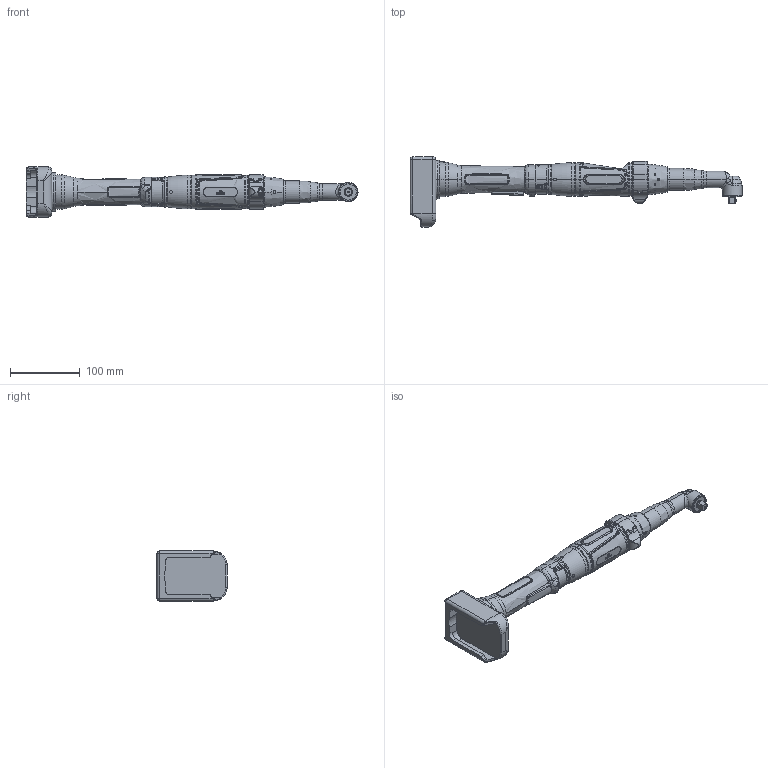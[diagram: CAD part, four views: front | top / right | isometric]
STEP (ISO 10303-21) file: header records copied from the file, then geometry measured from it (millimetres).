
FILE_DESCRIPTION (( 'STEP AP214' ), '1' );
FILE_NAME ('70122790_HSXBW1015WV14B.STEP', '2026-03-31T11:21:04', ( '' ), ( '' ), 'SwSTEP 2.0', 'SolidWorks 2020', '' );
FILE_SCHEMA (( 'AUTOMOTIVE_DESIGN' ));
Length unit declared in the file: millimetre
Products named in the file (1): 70122790_HSXBW1015WV14B
Bounding box: 477.2 x 101 x 72 mm (x, y, z)
Volume: 746137.4 mm3; surface area: 110614.7 mm2
Topology: 13 solids, 13 shells, 1363 faces, 3359 edges, 2055 vertices
Faces by surface type: plane 398, cylinder 365, bspline 361, torus 129, cone 84, sphere 26
Entity records: 80672 total; most frequent: CARTESIAN_POINT 36141, ORIENTED_EDGE 6640, DIRECTION 5445, EDGE_CURVE 3320, AXIS2_PLACEMENT_3D 2147, VERTEX_POINT 2049, EDGE_LOOP 1445, UNCERTAINTY_MEASURE_WITH_UNIT 1378
